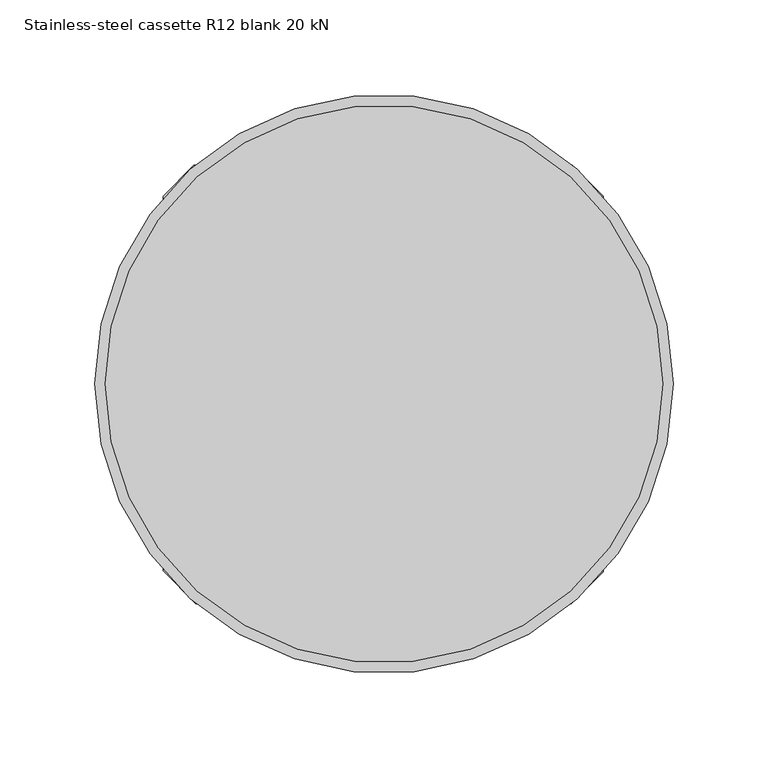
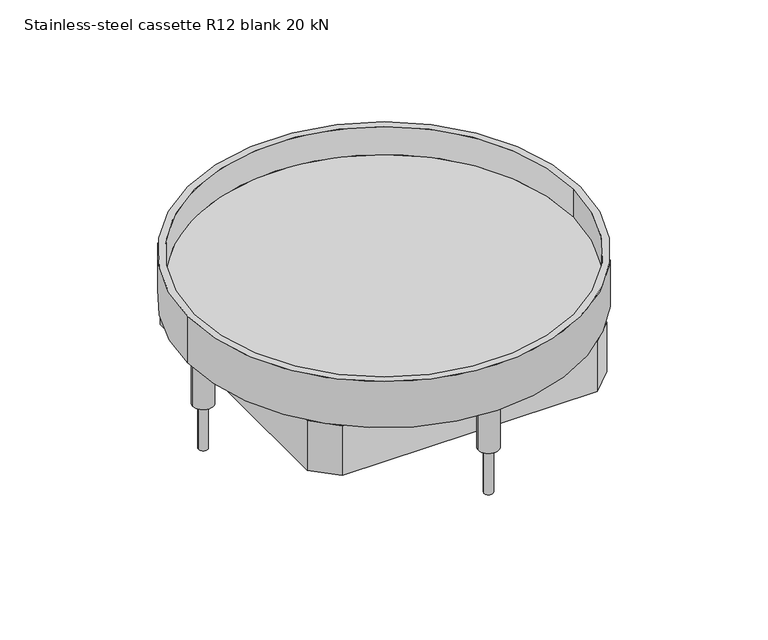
"""IFC4 building model written with IfcOpenShell, lengths in millimetres: proxy geometry, Electrical_Installation_Hager_VE-EE_EKSR1220BL-Heavy-duty-cassette-R12-blank : Stainless-steel cassette R12 blank 20 kN."""

import ifcopenshell
import ifcopenshell.guid

model = None  # the IFC model being written
_history = None  # IfcOwnerHistory: only IFC2X3 demands one
_inside = {}  # id of a spatial element -> (the spatial element, [elements in it])
_under = {}  # id of a project, library or spatial element -> (it, [spatial elements below it])
_declared = {}  # id of a project -> (the project, [libraries it declares])
_typed = {}  # id of a type object -> (the type object, [elements of that type])
_made_of = {}  # id of a material, layer set ... -> (it, [elements and type objects made of it])


def new_model(schema):
    """Start an empty IFC model of exactly this schema.

    Asked for "IFC4X3", IfcOpenShell would pick the latest addendum, in which some entities
    have other attributes; the version numbers below select the first issue.
    IFC2X3 requires an IfcOwnerHistory on every rooted entity: one is made here for all.
    """
    global model, _history
    if schema == "IFC4X3":
        model = ifcopenshell.file(schema_version=(4, 3, 0, 0))
    else:
        model = ifcopenshell.file(schema=schema)
    _inside.clear()
    _under.clear()
    _declared.clear()
    _typed.clear()
    _made_of.clear()
    _history = None
    if model.schema == "IFC2X3":
        org = make("IfcOrganization", Name="unknown")
        user = make(
            "IfcPersonAndOrganization",
            ThePerson=make("IfcPerson", FamilyName="unknown"),
            TheOrganization=org,
        )
        app = make(
            "IfcApplication",
            ApplicationDeveloper=org,
            Version="unknown",
            ApplicationFullName="unknown",
            ApplicationIdentifier="unknown",
        )
        _history = make(
            "IfcOwnerHistory",
            OwningUser=user,
            OwningApplication=app,
            ChangeAction="ADDED",
            CreationDate=0,
        )
    return model


def make(cls, **values):
    """One entity of the class cls with the attributes given. An attribute that is None is left unset."""
    return model.create_entity(
        cls, **{name: value for name, value in values.items() if value is not None}
    )


def rooted(cls, **values):
    """An entity with a GlobalId (a new one), such as an element, a storey or a relation."""
    return make(cls, GlobalId=ifcopenshell.guid.new(), OwnerHistory=_history, **values)


def si_unit(unit_type, name, prefix=None):
    """IfcSIUnit, for example si_unit("LENGTHUNIT", "METRE", prefix="MILLI")."""
    return make("IfcSIUnit", UnitType=unit_type, Prefix=prefix, Name=name)


def assignment(units):
    """IfcUnitAssignment: the units of a project."""
    return None if units is None else make("IfcUnitAssignment", Units=units)


def point(xyz):
    """IfcCartesianPoint."""
    return None if xyz is None else make("IfcCartesianPoint", Coordinates=xyz)


def direction(xyz):
    """IfcDirection."""
    return None if xyz is None else make("IfcDirection", DirectionRatios=xyz)


def frame(location, z_axis=None, x_axis=None):
    """IfcAxis2Placement3D, a coordinate frame: its origin and axes. An axis left out is left unset."""
    return make(
        "IfcAxis2Placement3D",
        Location=point(location),
        Axis=direction(z_axis),
        RefDirection=direction(x_axis),
    )


def frame_2d(location, x_axis=None):
    """IfcAxis2Placement2D, a coordinate frame in the plane: its origin and x axis."""
    return make(
        "IfcAxis2Placement2D", Location=point(location), RefDirection=direction(x_axis)
    )


def origin():
    """The frame at (0, 0, 0) with its axes left unset."""
    return frame((0.0, 0.0, 0.0))


def place(relative_to, where):
    """IfcLocalPlacement: puts the frame where relative to a parent placement (None: the world)."""
    return make(
        "IfcLocalPlacement", PlacementRelTo=relative_to, RelativePlacement=where
    )


def context(
    kind, dimensions, precision=None, world=None, true_north=None, identifier=None
):
    """IfcGeometricRepresentationContext, for example the 3D "Model" context."""
    return make(
        "IfcGeometricRepresentationContext",
        ContextIdentifier=identifier,
        ContextType=kind,
        CoordinateSpaceDimension=dimensions,
        Precision=precision,
        WorldCoordinateSystem=world,
        TrueNorth=true_north,
    )


def project(units=None, contexts=None):
    """IfcProject with its units and contexts."""
    return rooted(
        "IfcProject",
        Name="project",
        RepresentationContexts=contexts,
        UnitsInContext=assignment(units),
    )


def spatial(cls, under=None, at=None, **own):
    """A site, building, storey or space (cls), placed at a placement, below another one or the project."""
    s = rooted(cls, ObjectPlacement=at, **own)
    if under is not None:
        _under.setdefault(under.id(), (under, []))[1].append(s)
    return s


def polyline(points):
    """IfcPolyline through the points."""
    return make("IfcPolyline", Points=[point(p) for p in points])


def circle_curve(where, radius):
    """IfcCircle in the frame where."""
    return make("IfcCircle", Position=where, Radius=radius)


def trimmed(basis, trim1, trim2, sense, master):
    """IfcTrimmedCurve: the piece of a basis curve between two trims."""
    return make(
        "IfcTrimmedCurve",
        BasisCurve=basis,
        Trim1=trim1,
        Trim2=trim2,
        SenseAgreement=sense,
        MasterRepresentation=master,
    )


def segment(curve, same_sense, transition):
    """IfcCompositeCurveSegment."""
    return make(
        "IfcCompositeCurveSegment",
        Transition=transition,
        SameSense=same_sense,
        ParentCurve=curve,
    )


def composite_curve(segments, self_intersect=None):
    """IfcCompositeCurve: segments joined end to end."""
    return make("IfcCompositeCurve", Segments=segments, SelfIntersect=self_intersect)


def outline(outer, holes=None, kind="AREA"):
    """IfcArbitraryClosedProfileDef: a profile drawn as a closed curve; with holes, ...WithVoids."""
    if holes is None:
        return make("IfcArbitraryClosedProfileDef", ProfileType=kind, OuterCurve=outer)
    return make(
        "IfcArbitraryProfileDefWithVoids",
        ProfileType=kind,
        OuterCurve=outer,
        InnerCurves=holes,
    )


def extrude(swept, where, along, depth):
    """IfcExtrudedAreaSolid: the profile swept, set in the frame where, extruded along a direction by depth."""
    return make(
        "IfcExtrudedAreaSolid",
        SweptArea=swept,
        Position=where,
        ExtrudedDirection=direction(along),
        Depth=depth,
    )


def shape(context_of_items, identifier, shape_type, items):
    """IfcShapeRepresentation: the items that make up one representation, for example the "Body"."""
    return make(
        "IfcShapeRepresentation",
        ContextOfItems=context_of_items,
        RepresentationIdentifier=identifier,
        RepresentationType=shape_type,
        Items=items,
    )


def source(mapping_origin, context_of_items, identifier, shape_type, items):
    """IfcRepresentationMap: a shape defined once, which mapped items show again and again."""
    return make(
        "IfcRepresentationMap",
        MappingOrigin=mapping_origin,
        MappedRepresentation=shape(context_of_items, identifier, shape_type, items),
    )


def transform(
    local_origin,
    x_axis=None,
    y_axis=None,
    z_axis=None,
    scale=None,
    scale2=None,
    scale3=None,
    uniform=True,
):
    """IfcCartesianTransformationOperator3D, or its non-uniform kind. x_axis, y_axis, z_axis: its Axis1, 2, 3."""
    if uniform:
        return make(
            "IfcCartesianTransformationOperator3D",
            Axis1=direction(x_axis),
            Axis2=direction(y_axis),
            LocalOrigin=point(local_origin),
            Scale=scale,
            Axis3=direction(z_axis),
        )
    return make(
        "IfcCartesianTransformationOperator3DnonUniform",
        Axis1=direction(x_axis),
        Axis2=direction(y_axis),
        LocalOrigin=point(local_origin),
        Scale=scale,
        Axis3=direction(z_axis),
        Scale2=scale2,
        Scale3=scale3,
    )


def mapped(mapping_source, mapping_target):
    """IfcMappedItem: shows the shape of a source again, moved by a transform."""
    return make(
        "IfcMappedItem", MappingSource=mapping_source, MappingTarget=mapping_target
    )


def made_of(thing, what):
    """Note that an element or type object is made of a material, layer set ...; save() writes the relation."""
    if what is not None:
        _made_of.setdefault(what.id(), (what, []))[1].append(thing)
    return thing


def element(
    cls,
    number,
    at=None,
    inside=None,
    cuts=None,
    type_object=None,
    material=None,
    context=None,
    identifier="Body",
    shape_type=None,
    held_by="IfcProductDefinitionShape",
    body=None,
    shapes=None,
    **own,
):
    """One element of the class cls, such as IfcWall. Its Tag is "e" and its number.

    at: its placement. inside: the storey or other place that contains it. cuts: it is an
    opening in that element (IfcRelVoidsElement). A single representation is given by context,
    identifier, shape_type and body (its items); several are given by shapes. held_by: the class
    of the entity that holds the representations. save() writes the other relations.
    """
    e = rooted(cls, Tag="e%d" % number, ObjectPlacement=at, **own)
    if body is not None:
        shapes = [shape(context, identifier, shape_type, body)]
    if shapes is not None:
        e.Representation = make(held_by, Representations=shapes)
    if inside is not None:
        _inside.setdefault(inside.id(), (inside, []))[1].append(e)
    if cuts is not None:
        rooted(
            "IfcRelVoidsElement", RelatingBuildingElement=cuts, RelatedOpeningElement=e
        )
    if type_object is not None:
        _typed.setdefault(type_object.id(), (type_object, []))[1].append(e)
    return made_of(e, material)


def aggregate(whole, parts):
    """IfcRelAggregates: a whole, such as a stair, and the parts it consists of."""
    return rooted("IfcRelAggregates", RelatingObject=whole, RelatedObjects=parts)


def save(model, path):
    """Write the relations noted so far, then the file.

    IfcRelAggregates (storeys below a building ...), IfcRelContainedInSpatialStructure (elements
    in a storey), IfcRelDefinesByType, IfcRelAssociatesMaterial and IfcRelDeclares: one each for
    every whole, place, type object, material and project.
    """
    for whole, parts in _under.values():
        aggregate(whole, parts)
    for where, things in _inside.values():
        rooted(
            "IfcRelContainedInSpatialStructure",
            RelatedElements=things,
            RelatingStructure=where,
        )
    for kind, things in _typed.values():
        rooted("IfcRelDefinesByType", RelatedObjects=things, RelatingType=kind)
    for what, things in _made_of.values():
        rooted("IfcRelAssociatesMaterial", RelatedObjects=things, RelatingMaterial=what)
    for by, libraries in _declared.values():
        rooted("IfcRelDeclares", RelatingContext=by, RelatedDefinitions=libraries)
    model.write(path)


def plane_surface(at):
    """IfcPlane: the flat surface through the origin of the frame at, square to its z axis."""
    return make("IfcPlane", Position=at)


def cylinder_surface(at, radius):
    """IfcCylindricalSurface: all points at the distance radius from the z axis of the frame at."""
    return make("IfcCylindricalSurface", Position=at, Radius=radius)


def revolved_surface(curve, axis_point, axis_direction):
    """IfcSurfaceOfRevolution: the curve turned about the line through axis_point along axis_direction."""
    return make(
        "IfcSurfaceOfRevolution",
        SweptCurve=make("IfcArbitraryOpenProfileDef", ProfileType="CURVE", Curve=curve),
        AxisPosition=make("IfcAxis1Placement", Location=point(axis_point), Axis=direction(axis_direction)),
    )


def advanced_brep(points, edges, surfaces, faces):
    """IfcAdvancedBrep: a solid bounded by faces that lie on surfaces and meet in shared edges.

    An edge is (start, end): straight between two places in points (the first is 0);
    or (start, end, curve); or (start, end, curve, False) where it runs against its curve.
    A face is (place in surfaces, loops), or (place, loops, False) where it looks against
    its surface's normal. A loop lists edges by number (the first is 1), with a minus sign
    where the edge is run from its end to its start. The first loop is the outer one.
    """
    corners = [point(p) for p in points]
    vertices = [make("IfcVertexPoint", VertexGeometry=c) for c in corners]
    made = []
    for start, end, *more in edges:
        made.append(
            make(
                "IfcEdgeCurve",
                EdgeStart=vertices[start],
                EdgeEnd=vertices[end],
                EdgeGeometry=more[0] if more else make("IfcPolyline", Points=[corners[start], corners[end]]),
                SameSense=more[1] if len(more) > 1 else True,
            )
        )
    hull = []
    for where, loops, *sense in faces:
        bounds = []
        for j, loop in enumerate(loops):
            ring = [make("IfcOrientedEdge", EdgeElement=made[abs(k) - 1], Orientation=k > 0) for k in loop]
            bounds.append(
                make(
                    "IfcFaceOuterBound" if j == 0 else "IfcFaceBound",
                    Bound=make("IfcEdgeLoop", EdgeList=ring),
                    Orientation=True,
                )
            )
        hull.append(make("IfcAdvancedFace", Bounds=bounds, FaceSurface=surfaces[where], SameSense=sense[0] if sense else True))
    return make("IfcAdvancedBrep", Outer=make("IfcClosedShell", CfsFaces=hull))


def stainless_steel_cassette_r12_blank_20_kn_ac97d473(model_context):
    return source(origin(), model_context, "Body", "SolidModel", [
        extrude(outline(composite_curve([segment(trimmed(circle_curve(frame_2d((-140.5, 0.0)), 3.5), [point((-144.0, 0.0))], [point((-137.0, 0.0))], False, "CARTESIAN"), True, "CONTINUOUS"), segment(trimmed(circle_curve(frame_2d((-140.5, 0.0)), 3.5), [point((-137.0, 0.0))], [point((-144.0, 0.0))], False, "CARTESIAN"), True, "CONTINUOUS")], self_intersect=False)), frame((0.0, 0.0, -110.0), z_axis=(0.0, 0.0, 1.0), x_axis=(1.0, 0.0, 0.0)), (0.0, 0.0, 1.0), 74.011943),
        extrude(outline(composite_curve([segment(trimmed(circle_curve(frame_2d((0.0, 139.25)), 3.5), [point((-3.5, 139.25))], [point((3.5, 139.25))], False, "CARTESIAN"), True, "CONTINUOUS"), segment(trimmed(circle_curve(frame_2d((0.0, 139.25)), 3.5), [point((3.5, 139.25))], [point((-3.5, 139.25))], False, "CARTESIAN"), True, "CONTINUOUS")], self_intersect=False)), frame((0.0, 0.0, -110.0), z_axis=(0.0, 0.0, 1.0), x_axis=(1.0, 0.0, 0.0)), (0.0, 0.0, 1.0), 74.011943),
        extrude(outline(composite_curve([segment(trimmed(circle_curve(frame_2d((139.5625, 0.3125)), 3.548869), [point((136.013631, 0.3125))], [point((143.111369, 0.3125))], False, "CARTESIAN"), True, "CONTINUOUS"), segment(trimmed(circle_curve(frame_2d((139.5625, 0.3125)), 3.548869), [point((143.111369, 0.3125))], [point((136.013631, 0.3125))], False, "CARTESIAN"), True, "CONTINUOUS")], self_intersect=False)), frame((0.0, 0.0, -110.0), z_axis=(0.0, 0.0, 1.0), x_axis=(1.0, 0.0, 0.0)), (0.0, 0.0, 1.0), 74.011943),
        extrude(outline(composite_curve([segment(trimmed(circle_curve(frame_2d((0.0, -140.5)), 3.5), [point((-3.5, -140.5))], [point((3.5, -140.5))], False, "CARTESIAN"), True, "CONTINUOUS"), segment(trimmed(circle_curve(frame_2d((0.0, -140.5)), 3.5), [point((3.5, -140.5))], [point((-3.5, -140.5))], False, "CARTESIAN"), True, "CONTINUOUS")], self_intersect=False)), frame((0.0, 0.0, -110.0), z_axis=(0.0, 0.0, 1.0), x_axis=(1.0, 0.0, 0.0)), (0.0, 0.0, 1.0), 74.011943),
        advanced_brep(
        [(147.0, 0.0, -20.988057), (-147.0, 0.0, -20.988057), (-152.5, 0.0, -35.988057), (152.5, 0.0, -35.988057), (-152.5, 0.0, 2.011943), (152.5, 0.0, 2.011943), (-147.0, 0.0, 2.011943), (147.0, 0.0, 2.011943)],
        [
            (0, 1, circle_curve(frame((0.0, 0.0, -20.988057), z_axis=(0.0, 0.0, 1.0), x_axis=(1.0, 0.0, 0.0)), 147.0)),
            (1, 0, circle_curve(frame((0.0, 0.0, -20.988057), z_axis=(0.0, 0.0, 1.0), x_axis=(1.0, 0.0, 0.0)), 147.0)),
            (2, 3, circle_curve(frame((0.0, 0.0, -35.988057), z_axis=(0.0, 0.0, -1.0), x_axis=(1.0, 0.0, 0.0)), 152.5)),
            (3, 2, circle_curve(frame((0.0, 0.0, -35.988057), z_axis=(0.0, 0.0, -1.0), x_axis=(1.0, 0.0, 0.0)), 152.5)),
            (4, 5, circle_curve(frame((0.0, 0.0, 2.011943), z_axis=(0.0, 0.0, 1.0), x_axis=(1.0, 0.0, 0.0)), 152.5)),
            (5, 4, circle_curve(frame((0.0, 0.0, 2.011943), z_axis=(0.0, 0.0, 1.0), x_axis=(1.0, 0.0, 0.0)), 152.5)),
            (6, 7, circle_curve(frame((0.0, 0.0, 2.011943), z_axis=(0.0, 0.0, -1.0), x_axis=(1.0, 0.0, 0.0)), 147.0)),
            (7, 6, circle_curve(frame((0.0, 0.0, 2.011943), z_axis=(0.0, 0.0, -1.0), x_axis=(1.0, 0.0, 0.0)), 147.0)),
            (4, 2),
            (3, 5),
            (6, 1),
            (0, 7),
        ],
        [
            plane_surface(frame((147.0, 0.0, -20.988057), z_axis=(0.0, 0.0, 1.0), x_axis=(0.0, 1.0, 0.0))),
            plane_surface(frame((147.0, 0.0, -35.988057), z_axis=(0.0, 0.0, -1.0), x_axis=(0.0, -1.0, 0.0))),
            plane_surface(frame((152.5, 0.0, 2.011943), z_axis=(0.0, 0.0, 1.0), x_axis=(0.0, 1.0, 0.0))),
            cylinder_surface(frame((0.0, 0.0, -35.988057), z_axis=(0.0, 0.0, 1.0), x_axis=(1.0, 0.0, 0.0)), 152.5),
            revolved_surface(polyline([(147.0, 0.0, -20.988057), (147.0, 0.0, 2.011943)]), (0.0, 0.0, 0.0), (0.0, 0.0, -1.0)),
        ],
        [
            (0, [[1, 2]]),
            (1, [[3, 4]]),
            (2, [[5, 6], [7, 8]]),
            (3, [[-5, 9, -4, 10]]),
            (3, [[-6, -10, -3, -9]]),
            (4, [[-7, 11, -1, 12]]),
            (4, [[-8, -12, -2, -11]]),
        ],
    ),
        extrude(outline(polyline([(115.6459763, -99.0667905), (98.8840065, -115.8287603), (-99.1635728, -115.8287603), (-116.5, -98.4923331), (-116.5, 98.9721151), (-100.2221151, 115.25), (99.3581832, 115.25), (115.6459763, 98.9622069), (115.6459763, -99.0667905)]), holes=[polyline([(-113.5, 97.8504611), (-113.5, -98.1947584), (-98.3659981, -113.3287603), (97.8208922, -113.3287603), (113.1459763, -98.0036762), (113.1459763, 96.6575074), (97.132244, 112.6712397), (-98.6792213, 112.6712397), (-113.5, 97.8504611)])]), frame((0.0, 0.0, -76.988057), z_axis=(0.0, 0.0, 1.0), x_axis=(1.0, 0.0, 0.0)), (0.0, 0.0, 1.0), 41.0),
        extrude(outline(composite_curve([segment(trimmed(circle_curve(frame_2d((0.0, 139.25)), 8.0), [point((-8.0, 139.25))], [point((8.0, 139.25))], False, "CARTESIAN"), True, "CONTINUOUS"), segment(trimmed(circle_curve(frame_2d((0.0, 139.25)), 8.0), [point((8.0, 139.25))], [point((-8.0, 139.25))], False, "CARTESIAN"), True, "CONTINUOUS")], self_intersect=False)), frame((0.0, 0.0, -72.988057), z_axis=(0.0, 0.0, 1.0), x_axis=(1.0, 0.0, 0.0)), (0.0, 0.0, 1.0), 37.0),
        extrude(outline(composite_curve([segment(trimmed(circle_curve(frame_2d((139.25, 0.0)), 8.0), [point((131.25, 0.0))], [point((147.25, 0.0))], False, "CARTESIAN"), True, "CONTINUOUS"), segment(trimmed(circle_curve(frame_2d((139.25, 0.0)), 8.0), [point((147.25, 0.0))], [point((131.25, 0.0))], False, "CARTESIAN"), True, "CONTINUOUS")], self_intersect=False)), frame((0.0, 0.0, -72.988057), z_axis=(0.0, 0.0, 1.0), x_axis=(1.0, 0.0, 0.0)), (0.0, 0.0, 1.0), 37.0),
        extrude(outline(composite_curve([segment(trimmed(circle_curve(frame_2d((0.0, -140.5)), 8.0), [point((-8.0, -140.5))], [point((8.0, -140.5))], False, "CARTESIAN"), True, "CONTINUOUS"), segment(trimmed(circle_curve(frame_2d((0.0, -140.5)), 8.0), [point((8.0, -140.5))], [point((-8.0, -140.5))], False, "CARTESIAN"), True, "CONTINUOUS")], self_intersect=False)), frame((0.0, 0.0, -72.988057), z_axis=(0.0, 0.0, 1.0), x_axis=(1.0, 0.0, 0.0)), (0.0, 0.0, 1.0), 37.0),
        extrude(outline(composite_curve([segment(trimmed(circle_curve(frame_2d((-140.5, 0.0)), 8.0), [point((-148.5, 0.0))], [point((-132.5, 0.0))], False, "CARTESIAN"), True, "CONTINUOUS"), segment(trimmed(circle_curve(frame_2d((-140.5, 0.0)), 8.0), [point((-132.5, 0.0))], [point((-148.5, 0.0))], False, "CARTESIAN"), True, "CONTINUOUS")], self_intersect=False)), frame((0.0, 0.0, -72.988057), z_axis=(0.0, 0.0, 1.0), x_axis=(1.0, 0.0, 0.0)), (0.0, 0.0, 1.0), 37.0),
    ])


if __name__ == "__main__":
    model = new_model("IFC4")
    model_context = context("Model", 3, world=origin())
    ifc_project = project(units=[si_unit("LENGTHUNIT", "METRE", prefix="MILLI")], contexts=[model_context])
    site = spatial("IfcSite", under=ifc_project)
    building = spatial("IfcBuilding", under=site)
    placement = place(None, origin())
    stainless_steel_cassette_r12_blank_20_kn_shape = stainless_steel_cassette_r12_blank_20_kn_ac97d473(model_context)
    element("IfcBuildingElementProxy", 1, Name="Electrical_Installation_Hager_VE-EE_EKSR1220BL-Heavy-duty-cassette-R12-blank : Stainless-steel cassette R12 blank 20 kN", ObjectType="Electrical_Installation_Hager_VE-EE_EKSR1220BL-Heavy-duty-cassette-R12-blank : Stainless-steel cassette R12 blank 20 kN", at=placement, inside=building, context=model_context, shape_type="MappedRepresentation", body=[
        mapped(stainless_steel_cassette_r12_blank_20_kn_shape, transform((0.0, 0.0, 0.0), x_axis=(1.0, 0.0, 0.0), y_axis=(0.0, 1.0, 0.0), z_axis=(0.0, 0.0, 1.0))),
    ])
    save(model, "model.ifc")
